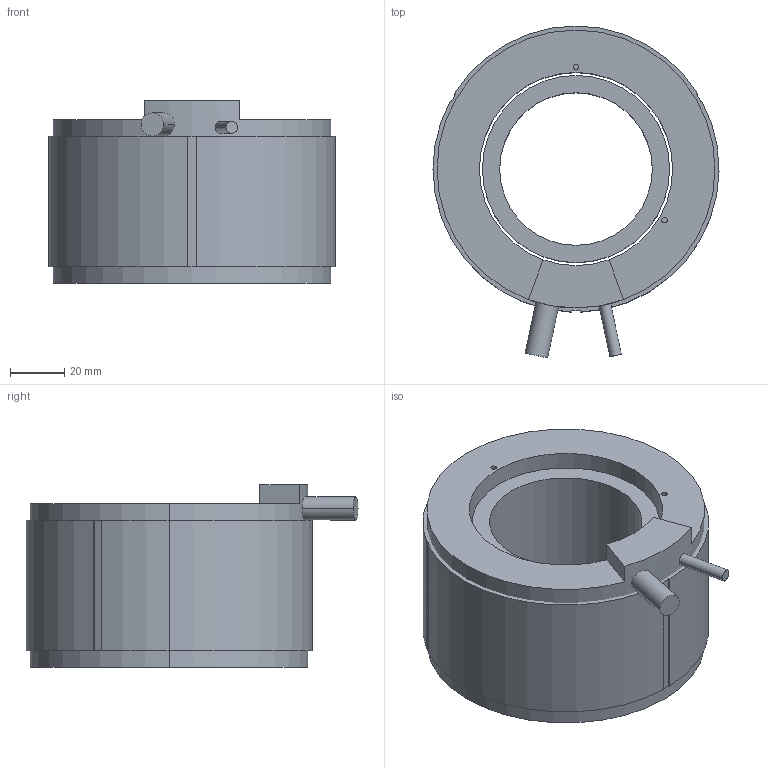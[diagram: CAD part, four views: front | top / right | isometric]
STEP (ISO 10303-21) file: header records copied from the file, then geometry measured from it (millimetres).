
FILE_DESCRIPTION (( 'STEP AP203' ), '1' );
FILE_NAME ('TM105-60 3D.STEP', '2024-01-12T02:45:45', ( '' ), ( '' ), 'SwSTEP 2.0', 'SolidWorks 2021', '' );
FILE_SCHEMA (( 'CONFIG_CONTROL_DESIGN' ));
Length unit declared in the file: millimetre
Products named in the file (1): TM105-60 3D
Bounding box: 104.99 x 121.85 x 67 mm (x, y, z)
Volume: 376048.6 mm3; surface area: 98544 mm2
Topology: 3 solids, 3 shells, 52 faces, 129 edges, 86 vertices
Faces by surface type: plane 30, cylinder 22
Entity records: 1766 total; most frequent: CARTESIAN_POINT 392, DIRECTION 275, ORIENTED_EDGE 258, EDGE_CURVE 129, AXIS2_PLACEMENT_3D 97, VERTEX_POINT 86, VECTOR 81, LINE 81
